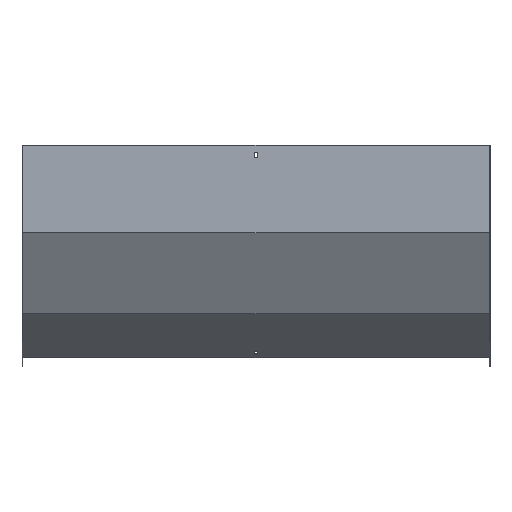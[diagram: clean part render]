
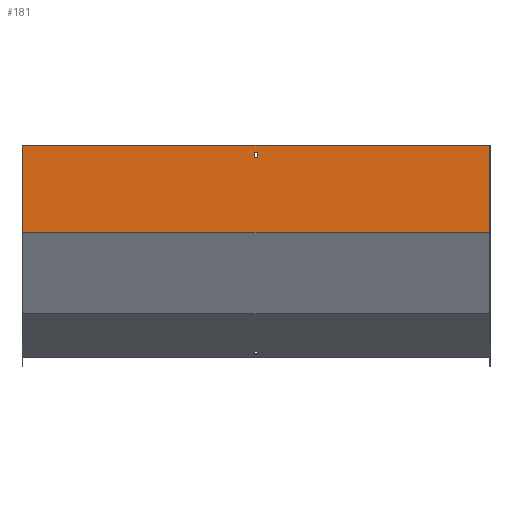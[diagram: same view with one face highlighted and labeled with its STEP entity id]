
A CAD part, front view. The second image highlights one B-rep face of the part: STEP entity #181.
In plain terms, the highlighted planar face has unit normal (0, -1, 0).
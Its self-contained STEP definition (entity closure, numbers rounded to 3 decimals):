
#8 = LINE ( 'NONE', #197, #435 ) ;
#11 = EDGE_CURVE ( 'NONE', #366, #53, #250, .T. ) ;
#30 = VECTOR ( 'NONE', #591, 1000. ) ;
#53 = VERTEX_POINT ( 'NONE', #185 ) ;
#93 = CARTESIAN_POINT ( 'NONE',  ( 3.25, -1.5, 0. ) ) ;
#103 = LINE ( 'NONE', #711, #618 ) ;
#107 = DIRECTION ( 'NONE',  ( -1., 0., 0. ) ) ;
#128 = EDGE_LOOP ( 'NONE', ( #574, #788, #293, #838 ) ) ;
#129 = EDGE_CURVE ( 'NONE', #366, #177, #719, .T. ) ;
#131 = FACE_BOUND ( 'NONE', #520, .T. ) ;
#135 = CARTESIAN_POINT ( 'NONE',  ( 401.5, -1.5, -21. ) ) ;
#160 = VERTEX_POINT ( 'NONE', #527 ) ;
#163 = DIRECTION ( 'NONE',  ( 0., 0., -1. ) ) ;
#177 = VERTEX_POINT ( 'NONE', #458 ) ;
#181 = ADVANCED_FACE ( 'NONE', ( #725, #131 ), #658, .F. ) ;
#185 = CARTESIAN_POINT ( 'NONE',  ( 400., -1.5, -150.102 ) ) ;
#190 = VECTOR ( 'NONE', #163, 1000. ) ;
#197 = CARTESIAN_POINT ( 'NONE',  ( -3.25, -1.5, 0. ) ) ;
#198 = VECTOR ( 'NONE', #249, 1000. ) ;
#199 = DIRECTION ( 'NONE',  ( 0., 1., 0. ) ) ;
#214 = EDGE_CURVE ( 'NONE', #290, #795, #452, .T. ) ;
#225 = AXIS2_PLACEMENT_3D ( 'NONE', #668, #199, #338 ) ;
#249 = DIRECTION ( 'NONE',  ( 0., 0., -1. ) ) ;
#250 = LINE ( 'NONE', #373, #190 ) ;
#282 = CARTESIAN_POINT ( 'NONE',  ( -400., -1.5, -150.102 ) ) ;
#290 = VERTEX_POINT ( 'NONE', #532 ) ;
#291 = CARTESIAN_POINT ( 'NONE',  ( 3.25, -1.5, -21. ) ) ;
#293 = ORIENTED_EDGE ( 'NONE', *, *, #11, .F. ) ;
#297 = ORIENTED_EDGE ( 'NONE', *, *, #214, .F. ) ;
#313 = EDGE_CURVE ( 'NONE', #795, #160, #343, .T. ) ;
#326 = VERTEX_POINT ( 'NONE', #282 ) ;
#338 = DIRECTION ( 'NONE',  ( 0., 0., 1. ) ) ;
#343 = LINE ( 'NONE', #93, #541 ) ;
#345 = DIRECTION ( 'NONE',  ( 0., 0., 1. ) ) ;
#361 = LINE ( 'NONE', #559, #198 ) ;
#366 = VERTEX_POINT ( 'NONE', #498 ) ;
#373 = CARTESIAN_POINT ( 'NONE',  ( 400., -1.5, 0. ) ) ;
#388 = ORIENTED_EDGE ( 'NONE', *, *, #526, .F. ) ;
#393 = DIRECTION ( 'NONE',  ( 1., 0., 0. ) ) ;
#400 = EDGE_CURVE ( 'NONE', #177, #326, #361, .T. ) ;
#409 = EDGE_CURVE ( 'NONE', #160, #780, #103, .T. ) ;
#434 = ORIENTED_EDGE ( 'NONE', *, *, #409, .F. ) ;
#435 = VECTOR ( 'NONE', #457, 1000. ) ;
#452 = LINE ( 'NONE', #135, #767 ) ;
#457 = DIRECTION ( 'NONE',  ( 0., 0., -1. ) ) ;
#458 = CARTESIAN_POINT ( 'NONE',  ( -400., -1.5, 0. ) ) ;
#498 = CARTESIAN_POINT ( 'NONE',  ( 400., -1.5, 0. ) ) ;
#520 = EDGE_LOOP ( 'NONE', ( #552, #297, #388, #434 ) ) ;
#526 = EDGE_CURVE ( 'NONE', #780, #290, #8, .T. ) ;
#527 = CARTESIAN_POINT ( 'NONE',  ( 3.25, -1.5, -12. ) ) ;
#532 = CARTESIAN_POINT ( 'NONE',  ( -3.25, -1.5, -21. ) ) ;
#541 = VECTOR ( 'NONE', #345, 1000. ) ;
#546 = CARTESIAN_POINT ( 'NONE',  ( -3.25, -1.5, -12. ) ) ;
#552 = ORIENTED_EDGE ( 'NONE', *, *, #313, .F. ) ;
#559 = CARTESIAN_POINT ( 'NONE',  ( -400., -1.5, 0. ) ) ;
#574 = ORIENTED_EDGE ( 'NONE', *, *, #400, .T. ) ;
#582 = EDGE_CURVE ( 'NONE', #53, #326, #792, .T. ) ;
#591 = DIRECTION ( 'NONE',  ( -1., 0., 0. ) ) ;
#618 = VECTOR ( 'NONE', #107, 1000. ) ;
#658 = PLANE ( 'NONE',  #225 ) ;
#663 = CARTESIAN_POINT ( 'NONE',  ( 401.5, -1.5, -150.102 ) ) ;
#668 = CARTESIAN_POINT ( 'NONE',  ( 401.5, -1.5, 0. ) ) ;
#672 = DIRECTION ( 'NONE',  ( -1., 0., 0. ) ) ;
#711 = CARTESIAN_POINT ( 'NONE',  ( 401.5, -1.5, -12. ) ) ;
#719 = LINE ( 'NONE', #797, #808 ) ;
#725 = FACE_OUTER_BOUND ( 'NONE', #128, .T. ) ;
#767 = VECTOR ( 'NONE', #393, 1000. ) ;
#780 = VERTEX_POINT ( 'NONE', #546 ) ;
#788 = ORIENTED_EDGE ( 'NONE', *, *, #582, .F. ) ;
#792 = LINE ( 'NONE', #663, #30 ) ;
#795 = VERTEX_POINT ( 'NONE', #291 ) ;
#797 = CARTESIAN_POINT ( 'NONE',  ( 401.5, -1.5, 0. ) ) ;
#808 = VECTOR ( 'NONE', #672, 1000. ) ;
#838 = ORIENTED_EDGE ( 'NONE', *, *, #129, .T. ) ;
